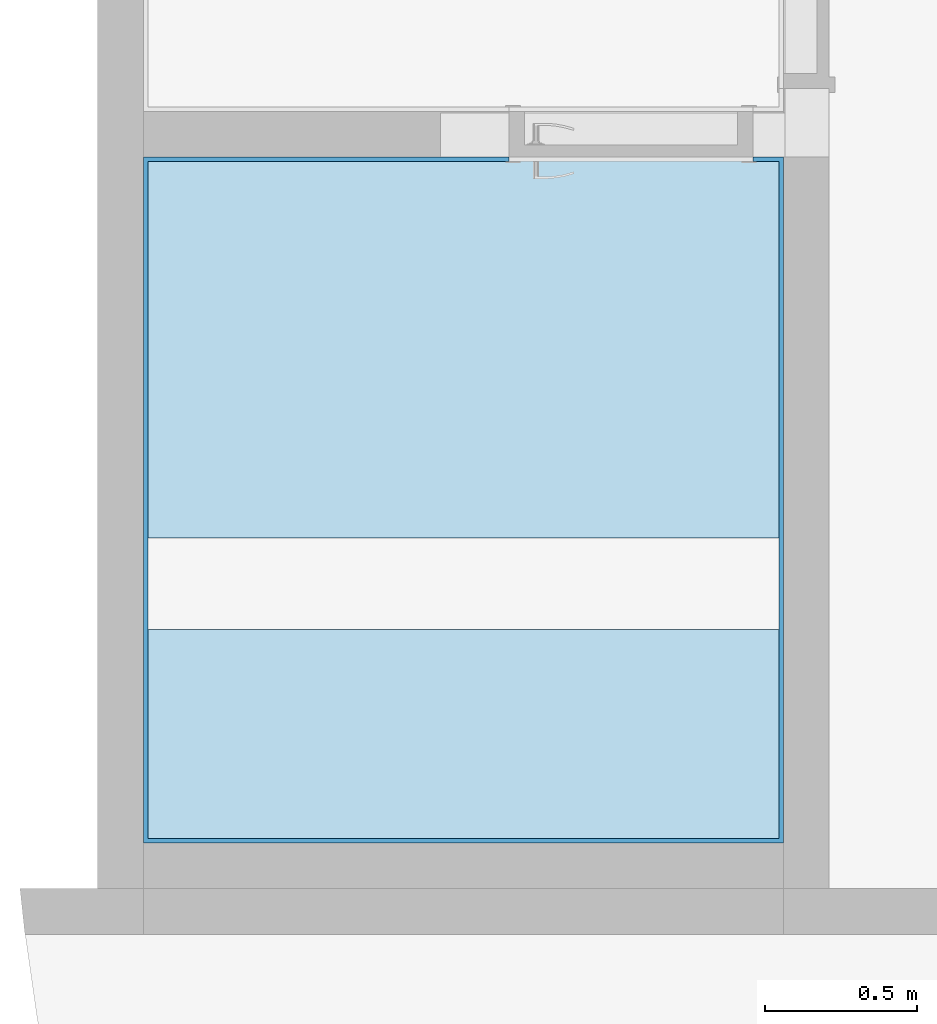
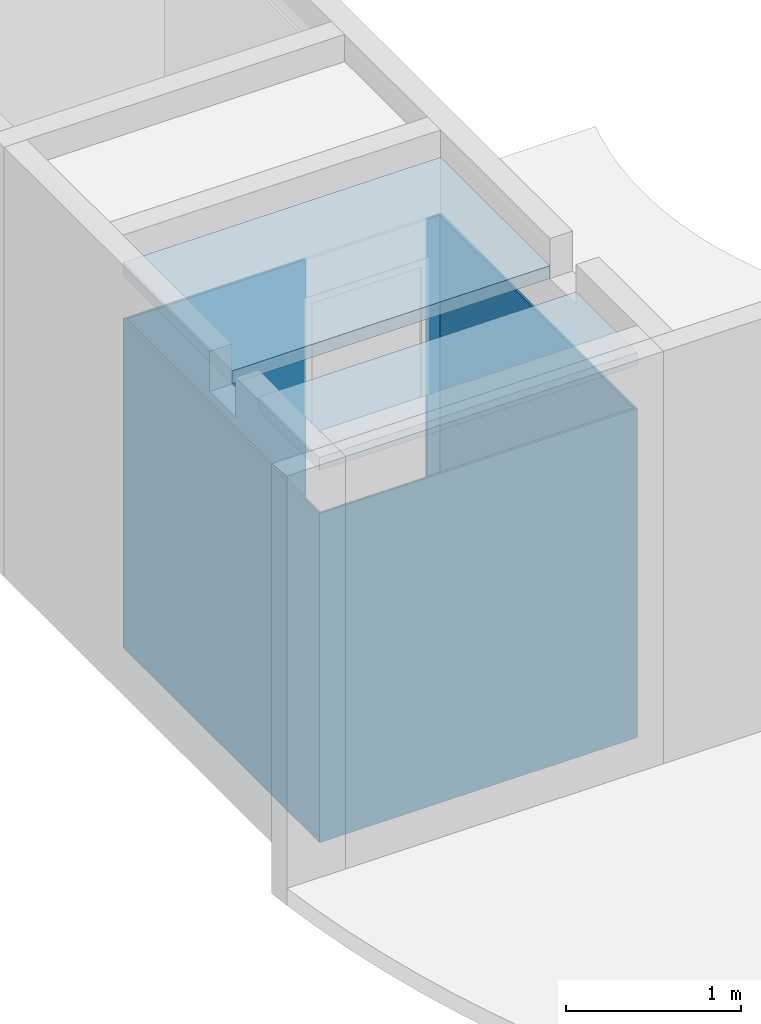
# One storey, part 3 of 17: 2 slabs.
"""IFC4 building model written with IfcOpenShell, lengths in millimetres."""

from ifc_helpers import new_model, entity, si_unit, converted_unit, derived_unit, direction, frame, origin_with_axes, place, context, subcontext, project, spatial, polygons, material, constituent, constituent_set, type_object, element, save


model = new_model("IFC4")

# Units and contexts
model_context = context("Model", 3, precision=0.01, world=origin_with_axes(), true_north=direction((0.0, 1.0)))
body_context = subcontext(model_context, "Body", "Model", "MODEL_VIEW")
ifc_project = project(units=[si_unit("LENGTHUNIT", "METRE", prefix="MILLI"), si_unit("AREAUNIT", "SQUARE_METRE"), si_unit("VOLUMEUNIT", "CUBIC_METRE"), converted_unit("PLANEANGLEUNIT", "DEGREE", entity("IfcPlaneAngleMeasure", 0.0174532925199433), si_unit("PLANEANGLEUNIT", "RADIAN"), dimensions=[0, 0, 0, 0, 0, 0, 0]), converted_unit("TIMEUNIT", "Year", entity("IfcTimeMeasure", 31557600.0), si_unit("TIMEUNIT", "SECOND"), dimensions=[0, 0, 1, 0, 0, 0, 0]), si_unit("MASSUNIT", "GRAM", prefix="KILO"), si_unit("THERMODYNAMICTEMPERATUREUNIT", "DEGREE_CELSIUS"), si_unit("LUMINOUSINTENSITYUNIT", "LUMEN"), si_unit("ENERGYUNIT", "JOULE", prefix="MEGA"), derived_unit("THERMALCONDUCTANCEUNIT", [(si_unit("POWERUNIT", "WATT"), 1), (si_unit("LENGTHUNIT", "METRE"), -1), (si_unit("THERMODYNAMICTEMPERATUREUNIT", "KELVIN"), -1)]), derived_unit("SPECIFICHEATCAPACITYUNIT", [(si_unit("ENERGYUNIT", "JOULE"), 1), (si_unit("MASSUNIT", "GRAM", prefix="KILO"), -1), (si_unit("THERMODYNAMICTEMPERATUREUNIT", "KELVIN"), -1)]), derived_unit("MASSDENSITYUNIT", [(si_unit("MASSUNIT", "GRAM", prefix="KILO"), 1), (si_unit("VOLUMEUNIT", "CUBIC_METRE"), -1)])], contexts=[model_context])

# Site, building, storey
site_placement = place(None, origin_with_axes())
site = spatial("IfcSite", under=ifc_project, at=site_placement, Name="Exteriér", CompositionType="ELEMENT")
building_placement = place(site_placement, origin_with_axes())
building = spatial("IfcBuilding", under=site, at=building_placement, Name="Univerzitní lezecké centrum", CompositionType="ELEMENT")
storey_placement = place(building_placement, frame((0.0, 0.0, 3200.0), z_axis=(0.0, 0.0, 1.0), x_axis=(1.0, 0.0, 0.0)))
storey = spatial("IfcBuildingStorey", under=building, at=storey_placement, Name="2.NP", CompositionType="ELEMENT", Elevation=3200.0)

# Slabs
ifc_material_1 = material(Name="Keramická dlažba 20x40 - obklad")
slab_type_1 = type_object("IfcSlabType", Name="Keramická dlažba 20x40 - obklad 2300", PredefinedType="FLOOR")
slab_1_placement = place(storey_placement, frame((-3900.344408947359, 1250.014757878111, 2300.0), z_axis=(0.0, 0.0, 1.0), x_axis=(1.0, 0.0, 0.0)))
element("IfcSlab", 1, at=slab_1_placement, inside=storey, type_object=slab_type_1, material=ifc_material_1, PredefinedType="FLOOR", context=body_context, shape_type="Tessellation", body=[
    polygons([(0.0, 0.0, 0.0), (0.0, 0.0, -2300.0), (-1199.803942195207, 0.0, -2300.0), (-1199.803942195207, 0.0, 0.0), (0.0, -14.99999764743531, 0.0), (0.0, -14.99999764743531, -2300.0), (-1184.803944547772, -14.99999764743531, -2300.0), (-1184.803944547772, -2234.992643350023, -2300.0), (884.9926539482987, -2234.992643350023, -2300.0), (884.9926539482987, -14.99999764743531, -2300.0), (800.0000309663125, -14.99999764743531, -2300.0), (800.0000309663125, 0.0, -2300.0), (899.9926515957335, 0.0, -2300.0), (899.9926515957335, -2249.627551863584, -2300.0), (-1199.803942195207, -2249.627551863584, -2300.0), (-1199.803942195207, -2249.627551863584, 0.0), (899.9926515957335, -2249.627551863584, 0.0), (899.9926515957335, 0.0, 0.0), (800.0000309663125, 0.0, 0.0), (800.0000309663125, -14.99999764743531, 0.0), (884.9926539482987, -14.99999764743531, 0.0), (884.9926539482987, -2234.992643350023, 0.0), (-1184.803944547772, -2234.992643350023, 0.0), (-1184.803944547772, -14.99999764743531, 0.0)], [[[1, 2, 3, 4]], [[5, 6, 2, 1]], [[3, 2, 6, 7, 8, 9, 10, 11, 12, 13, 14, 15]], [[4, 3, 15, 16]], [[5, 1, 4, 16, 17, 18, 19, 20, 21, 22, 23, 24]], [[24, 7, 6, 5]], [[23, 8, 7, 24]], [[22, 9, 8, 23]], [[21, 10, 9, 22]], [[20, 11, 10, 21]], [[19, 12, 11, 20]], [[18, 13, 12, 19]], [[17, 14, 13, 18]], [[16, 15, 14, 17]]], closed=True),
])
ifc_material_2 = material(Name="SDK - UA profil nosný 50")
ifc_constituent_1 = constituent(ifc_material_2, Name="SDK - UA profil nosný 50")
ifc_material_3 = material(Name="SDK - R-CD profil montážní")
ifc_constituent_2 = constituent(ifc_material_3, Name="SDK - R-CD profil montážní")
ifc_material_4 = material(Name="Sádrokarton - voděodolný")
ifc_constituent_3 = constituent(ifc_material_4, Name="Sádrokarton - voděodolný")
ifc_constituent_set = constituent_set(constituents=[ifc_constituent_1, ifc_constituent_2, ifc_constituent_3], Name="!SDK - hygienický")
slab_type_2 = type_object("IfcSlabType", Name="!SDK - hygienický 90", PredefinedType="FLOOR")
slab_2_placement = place(storey_placement, frame((-5100.148351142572, -999.6127939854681, 2690.0), z_axis=(0.0, 0.0, 1.0), x_axis=(1.0, 0.0, 0.0)))
element("IfcSlab", 2, at=slab_2_placement, inside=storey, type_object=slab_type_2, material=ifc_constituent_set, Name="Pdh01", PredefinedType="FLOOR", context=body_context, shape_type="Tessellation", body=[
    polygons([(2099.796584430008, 699.4493835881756, -49.99999999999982), (2099.796584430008, 699.4493835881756, 0.0), (2099.796584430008, 0.0, 0.0), (2099.796584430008, 0.0, -49.99999999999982), (0.0, 699.4493855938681, 0.0), (0.0, 699.4493855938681, -49.99999999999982), (0.0, 0.0, 0.0), (0.0, 0.0, -49.99999999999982)], [[[1, 2, 3, 4]], [[5, 2, 1, 6]], [[2, 5, 7, 3]], [[7, 8, 4, 3]], [[6, 1, 4, 8]], [[5, 6, 8, 7]]], closed=True),
    polygons([(0.0, 999.449385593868, 0.0), (2099.796584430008, 999.4493835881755, 0.0), (2099.796584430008, 2249.620167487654, 0.0), (0.0, 2249.723386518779, 0.0), (2099.796584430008, 999.4493835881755, -49.99999999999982), (0.0, 999.449385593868, -49.99999999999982), (2099.796584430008, 2249.620167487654, -49.99999999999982), (0.0, 2249.723386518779, -50.00000000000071)], [[[1, 2, 3, 4]], [[5, 2, 1, 6]], [[2, 5, 7, 3]], [[8, 4, 3, 7]], [[6, 1, 4, 8]], [[5, 6, 8, 7]]], closed=True),
    polygons([(2099.796584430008, 699.4493835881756, -76.99999999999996), (2099.796584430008, 699.4493835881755, -49.99999999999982), (2099.796584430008, 0.0, -49.99999999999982), (2099.796584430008, 0.0, -76.99999999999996), (0.0, 699.4493855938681, -49.99999999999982), (0.0, 699.4493855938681, -76.99999999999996), (0.0, 0.0, -49.99999999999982), (0.0, 0.0, -76.99999999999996)], [[[1, 2, 3, 4]], [[5, 2, 1, 6]], [[2, 5, 7, 3]], [[7, 8, 4, 3]], [[6, 1, 4, 8]], [[5, 6, 8, 7]]], closed=True),
    polygons([(0.0, 999.4493855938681, -49.99999999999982), (2099.796584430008, 999.4493835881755, -49.99999999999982), (2099.796584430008, 2249.620167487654, -50.00000000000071), (0.0, 2249.723386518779, -49.99999999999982), (2099.796584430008, 999.4493835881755, -76.99999999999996), (0.0, 999.449385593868, -76.99999999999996), (2099.796584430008, 2249.620167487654, -76.99999999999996), (0.0, 2249.723386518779, -76.99999999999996)], [[[1, 2, 3, 4]], [[5, 2, 1, 6]], [[2, 5, 7, 3]], [[8, 4, 3, 7]], [[6, 1, 4, 8]], [[5, 6, 8, 7]]], closed=True),
    polygons([(2099.796584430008, 699.4493835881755, -90.00000000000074), (2099.796584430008, 699.4493835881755, -76.99999999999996), (2099.796584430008, 0.0, -76.99999999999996), (2099.796584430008, 0.0, -89.99999999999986), (0.0, 699.4493855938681, -76.99999999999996), (0.0, 699.4493855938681, -90.00000000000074), (0.0, 0.0, -76.99999999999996), (0.0, 0.0, -89.99999999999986)], [[[1, 2, 3, 4]], [[5, 2, 1, 6]], [[2, 5, 7, 3]], [[3, 7, 8, 4]], [[6, 1, 4, 8]], [[5, 6, 8, 7]]], closed=True),
    polygons([(0.0, 999.4493855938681, -76.99999999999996), (2099.796584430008, 999.4493835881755, -76.99999999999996), (2099.796584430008, 2249.620167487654, -76.99999999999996), (0.0, 2249.723386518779, -76.99999999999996), (2099.796584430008, 999.4493835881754, -90.00000000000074), (0.0, 999.449385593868, -90.00000000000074), (2099.796584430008, 2249.620167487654, -89.99999999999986), (0.0, 2249.723386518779, -89.99999999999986)], [[[1, 2, 3, 4]], [[5, 2, 1, 6]], [[2, 5, 7, 3]], [[8, 4, 3, 7]], [[6, 1, 4, 8]], [[5, 6, 8, 7]]], closed=True),
])

save(model, "model.ifc")
